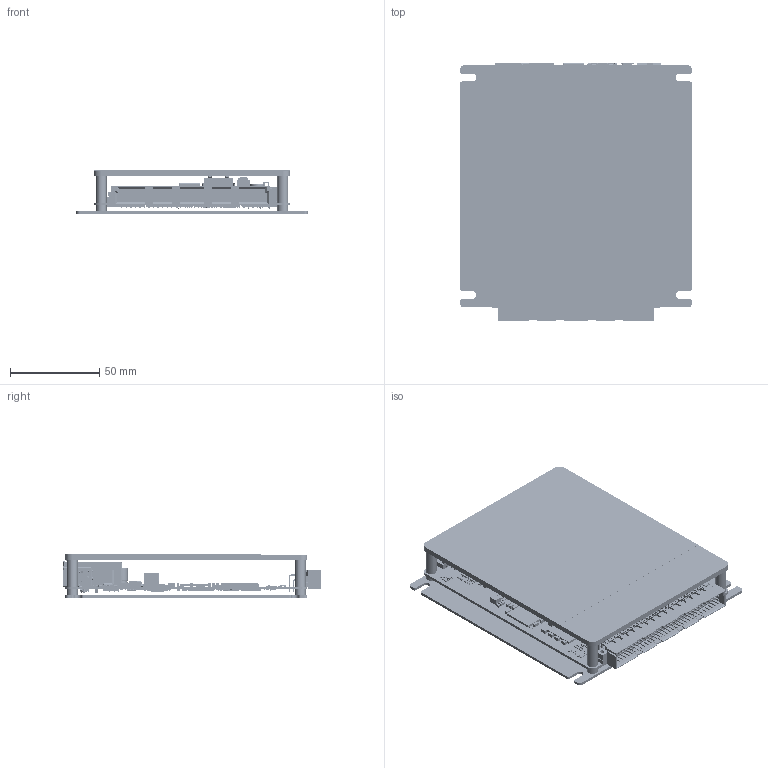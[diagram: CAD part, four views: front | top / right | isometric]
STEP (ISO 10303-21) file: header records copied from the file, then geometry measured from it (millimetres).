
FILE_DESCRIPTION(('Open CASCADE Model'),'2;1');
FILE_NAME('Open CASCADE Shape Model','2025-04-22T09:59:41',('Author'),( 'Open CASCADE'),'Open CASCADE STEP processor 7.5','Open CASCADE 7.5' ,'Unknown');
FILE_SCHEMA(('AUTOMOTIVE_DESIGN { 1 0 10303 214 1 1 1 1 }'));
Length unit declared in the file: millimetre
Products named in the file (2228): Open CASCADE STEP translator 7.5 4667; Open CASCADE STEP translator 7.5 4668; Open CASCADE STEP translator 7.5 4669; Open CASCADE STEP translator 7.5 4670; Open CASCADE STEP translator 7.5 4671; Open CASCADE STEP translator 7.5 4672; Open CASCADE STEP translator 7.5 4673; Open CASCADE STEP translator 7.5 4674; Open CASCADE STEP translator 7.5 4675; Open CASCADE STEP translator 7.5 4676; Open CASCADE STEP translator 7.5 4677; Open CASCADE STEP translator 7.5 4678; Open CASCADE STEP translator 7.5 4679; Open CASCADE STEP translator 7.5 4680; Open CASCADE STEP translator 7.5 4681; Open CASCADE STEP translator 7.5 4682; Open CASCADE STEP translator 7.5 4683; Open CASCADE STEP translator 7.5 4684; Open CASCADE STEP translator 7.5 4685; Open CASCADE STEP translator 7.5 4686; Open CASCADE STEP translator 7.5 4687; Open CASCADE STEP translator 7.5 4688; Open CASCADE STEP translator 7.5 4689; Open CASCADE STEP translator 7.5 4690; Open CASCADE STEP translator 7.5 4691; Open CASCADE STEP translator 7.5 4692; Open CASCADE STEP translator 7.5 4693; Open CASCADE STEP translator 7.5 4694; Open CASCADE STEP translator 7.5 4695; Open CASCADE STEP translator 7.5 4696; Open CASCADE STEP translator 7.5 4697; Open CASCADE STEP translator 7.5 4698; Open CASCADE STEP translator 7.5 4699; Open CASCADE STEP translator 7.5 4700; Open CASCADE STEP translator 7.5 4701; Open CASCADE STEP translator 7.5 4702; Open CASCADE STEP translator 7.5 4703; Open CASCADE STEP translator 7.5 4704; Open CASCADE STEP translator 7.5 4705; Open CASCADE STEP translator 7.5 4706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
Bounding box: 130 x 144.55 x 24.29 mm (x, y, z)
Volume: 121251.3 mm3; surface area: 176728.7 mm2
Topology: 2209 solids, 2209 shells, 22932 faces, 52627 edges, 34433 vertices
Faces by surface type: plane 19599, cylinder 2594, bspline 270, torus 173, sphere 156, extrusion 116, cone 24
Full cylindrical faces by diameter (mm): 0.05 x228, 0.3 x2, 0.5 x1, 0.65 x4, 0.85 x6, 0.888 x24, 0.9 x4, 0.95 x12, 1 x107, 1.1 x4, 1.16 x1, 1.2 x2, 1.57 x2, 1.6 x2, 1.78 x4, 1.96 x1, 2.12 x1, 2.33 x2, 2.38 x4, 2.459 x4, 2.8 x4, 2.92 x1, 3.08 x1, 3.1 x4, 3.2 x2, 4.2 x4, 4.3 x4, 5.6 x1, 6 x4, 7.12 x1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
Entity records: 710593 total; most frequent: CARTESIAN_POINT 135259, ORIENTED_EDGE 105154, DIRECTION 100603, EDGE_CURVE 52577, VECTOR 45361, LINE 45245, VERTEX_POINT 34433, AXIS2_PLACEMENT_3D 27621
